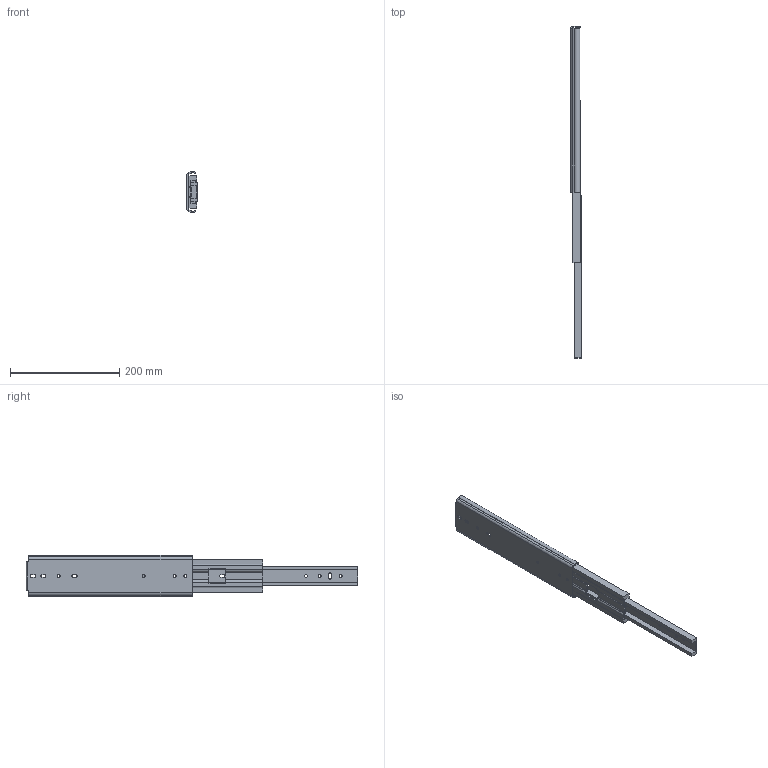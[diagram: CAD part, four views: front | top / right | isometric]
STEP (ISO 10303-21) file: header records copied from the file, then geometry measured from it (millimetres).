
FILE_DESCRIPTION(/* description */ ('Unknown'),/* implementation_level */ '2;1');
FILE_NAME(/* name */ '76J01-12 open',/* time_stamp */ '2024-07-26T15:16:14+08:00',/* author */ ('Unknown'),/* organization */ ('Unknown'),/* preprocessor_version */ 'ST-DEVELOPER v18.104',/* originating_system */ 'Solid Edge',/* authorisation */ 'Unknown');
FILE_SCHEMA (('AUTOMOTIVE_DESIGN {1 0 10303 214 3 1 1}'));
Length unit declared in the file: millimetre
Products named in the file (4): 76J01-12 open; 76J01 12 吋中_; 76J01 12 inch 內_0; 76J01 12 嬪
Assembly tree (3 placements, depth 2):
  76J01-12 open
    76J01 12 吋中_
    76J01 12 inch 內_0
    76J01 12 嬪
Bounding box: 19.3 x 608.9 x 76.76 mm (x, y, z)
Volume: 235213.2 mm3; surface area: 147992.5 mm2
Topology: 3 solids, 3 shells, 162 faces, 487 edges, 327 vertices
Faces by surface type: plane 92, cylinder 70
Full cylindrical faces by diameter (mm): 5.2 x7
Entity records: 5935 total; most frequent: CARTESIAN_POINT 962, ORIENTED_EDGE 946, DIRECTION 945, EDGE_CURVE 473, LINE 331, VECTOR 331, VERTEX_POINT 320, AXIS2_PLACEMENT_3D 307
